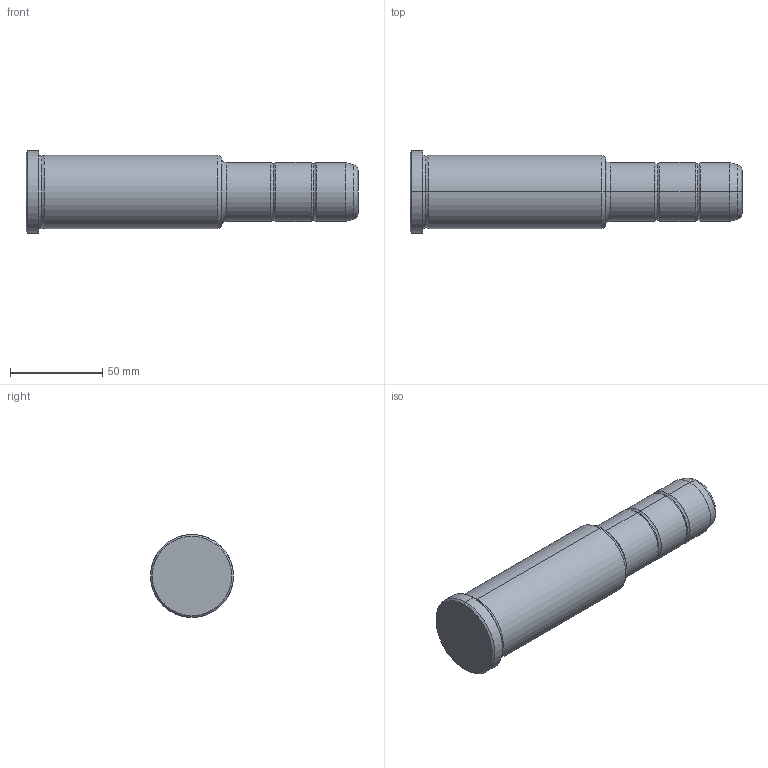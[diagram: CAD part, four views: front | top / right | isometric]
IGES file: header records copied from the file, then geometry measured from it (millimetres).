
Start section: START RECORD GO HERE.
Global section: file name: 351-32X106X180.igs; native system: DASSAULT SYSTEMES CATIA V5 R20 - www.3ds.com; preprocessor: CATIA Version 5 Release 20 ; author: Utente; organization: NB04-ASUS; date: 20210915.134834; units: millimetre
Bounding box: 180 x 45 x 45 mm (x, y, z)
Surface area: 23621.1 mm2 (no closed solid volume)
Topology: 0 solids, 0 shells, 36 faces, 204 edges, 204 vertices
Faces by surface type: revolution 32, plane 4
